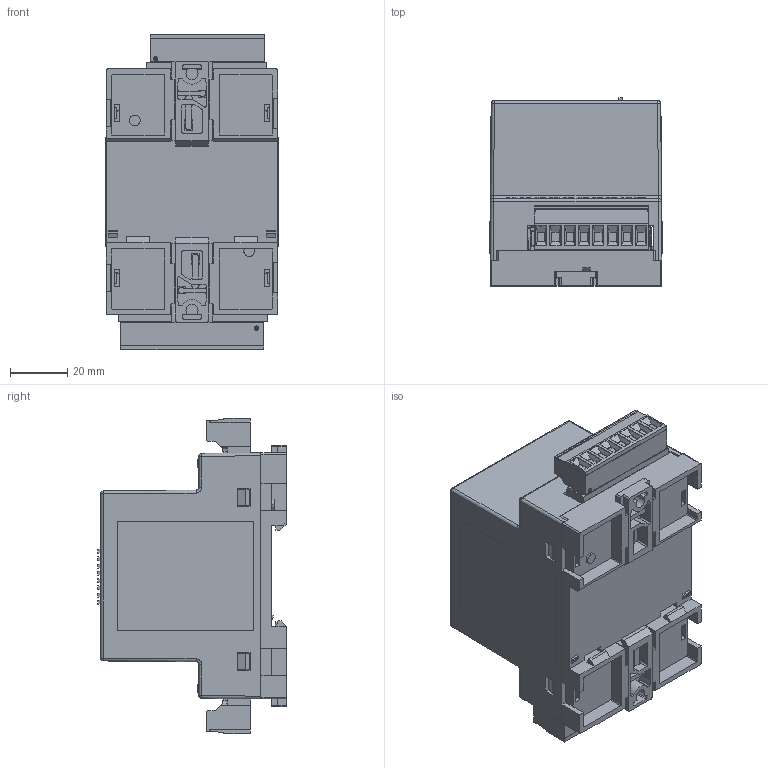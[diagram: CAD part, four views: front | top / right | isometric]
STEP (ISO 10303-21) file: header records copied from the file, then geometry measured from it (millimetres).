
FILE_DESCRIPTION (( 'STEP AP214' ), '1' );
FILE_NAME ('ISDUM4.STEP', '2020-11-15T23:32:56', ( '' ), ( '' ), 'SwSTEP 2.0', 'SolidWorks 2020', '' );
FILE_SCHEMA (( 'AUTOMOTIVE_DESIGN' ));
Length unit declared in the file: inch
Products named in the file (1): ISDUM4
Bounding box: 60.31 x 65.82 x 110.34 mm (x, y, z)
Volume: 67824.5 mm3; surface area: 90972.8 mm2
Topology: 29 solids, 38 shells, 5682 faces, 17523 edges, 12271 vertices
Faces by surface type: plane 4021, cylinder 1149, torus 202, bspline 152, cone 150, sphere 8
Entity records: 298930 total; most frequent: CARTESIAN_POINT 70454, ORIENTED_EDGE 34792, DIRECTION 28403, EDGE_CURVE 17396, VERTEX_POINT 12208, VECTOR 12047, LINE 12047, AXIS2_PLACEMENT_3D 8178
